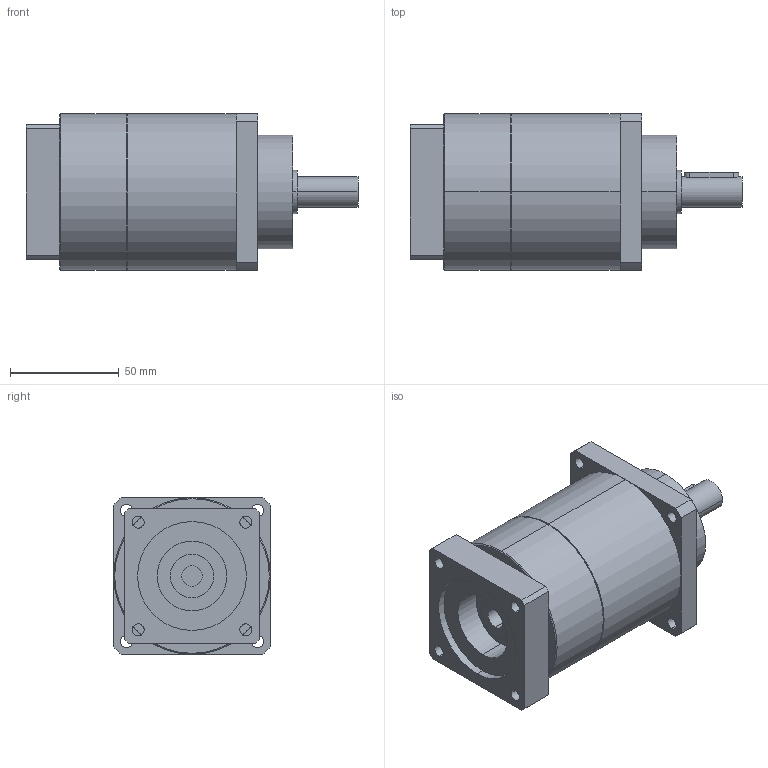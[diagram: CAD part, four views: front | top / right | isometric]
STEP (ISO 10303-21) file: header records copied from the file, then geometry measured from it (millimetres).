
FILE_DESCRIPTION(('CoCreate Modeling STEP Export'),'2;1');
FILE_NAME('GPT75_ig-9-12-16-20-25-28-35-40-50-70-100_14_B5T_9.52_P23.stp','2014-08-27T13:43:19',(''),(''),'CoCreate Modeling STEP processor for AP214 (Solid Model)','CoCreate Modeling 16.00C 25-Feb-2009 (C) Parametric Technology GmbH','');
FILE_SCHEMA(('AUTOMOTIVE_DESIGN { 1 0 10303 214 1 1 1 1 }'));
Length unit declared in the file: millimetre
Products named in the file (2): GPT75_ig-9-12-16-20-25-28-35-40-50-70-100_14_B5T_9.52_P23
Assembly tree (1 placements, depth 2):
  GPT75_ig-9-12-16-20-25-28-35-40-50-70-100_14_B5T_9.52_P23
    GPT75_ig-9-12-16-20-25-28-35-40-50-70-100_14_B5T_9.52_P23
Bounding box: 152.5 x 72 x 72 mm (x, y, z)
Volume: 459622.6 mm3; surface area: 44623.8 mm2
Topology: 1 solids, 1 shells, 88 faces, 226 edges, 145 vertices
Faces by surface type: cylinder 46, plane 38, cone 4
Entity records: 2676 total; most frequent: CARTESIAN_POINT 744, ORIENTED_EDGE 452, DIRECTION 334, EDGE_CURVE 226, VERTEX_POINT 145, AXIS2_PLACEMENT_3D 123, EDGE_LOOP 109, VECTOR 88
